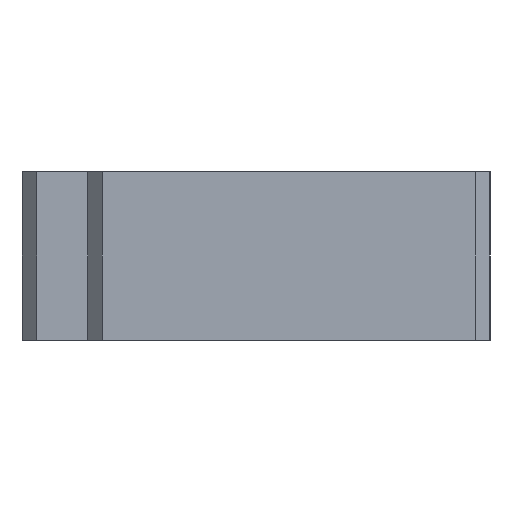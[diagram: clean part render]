
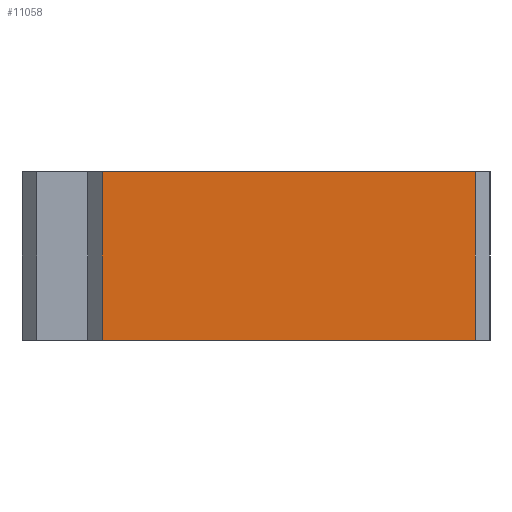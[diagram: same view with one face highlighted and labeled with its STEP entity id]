
A CAD part, left-side view. The second image highlights one B-rep face of the part: STEP entity #11058.
In plain terms, the highlighted planar face has unit normal (-1, 0, 0).
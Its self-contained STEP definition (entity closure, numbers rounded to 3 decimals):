
#344 = DIRECTION ( 'NONE',  ( 0., 0., 1. ) ) ;
#369 = ORIENTED_EDGE ( 'NONE', *, *, #4083, .F. ) ;
#615 = LINE ( 'NONE', #5189, #11369 ) ;
#918 = VECTOR ( 'NONE', #1222, 1000. ) ;
#1222 = DIRECTION ( 'NONE',  ( 0., 1., 0. ) ) ;
#1432 = CARTESIAN_POINT ( 'NONE',  ( -191.569, -30., -11.5 ) ) ;
#1444 = CARTESIAN_POINT ( 'NONE',  ( -191.569, 32., -11.5 ) ) ;
#1458 = LINE ( 'NONE', #10620, #8034 ) ;
#2103 = PLANE ( 'NONE',  #4535 ) ;
#2185 = DIRECTION ( 'NONE',  ( 0., 1., 0. ) ) ;
#2288 = VERTEX_POINT ( 'NONE', #9720 ) ;
#2415 = ORIENTED_EDGE ( 'NONE', *, *, #12781, .F. ) ;
#3202 = DIRECTION ( 'NONE',  ( 0., 0., -1. ) ) ;
#3784 = VERTEX_POINT ( 'NONE', #8285 ) ;
#4083 = EDGE_CURVE ( 'NONE', #2288, #3784, #615, .T. ) ;
#4535 = AXIS2_PLACEMENT_3D ( 'NONE', #9092, #10216, #2185 ) ;
#4830 = VERTEX_POINT ( 'NONE', #5903 ) ;
#5074 = EDGE_CURVE ( 'NONE', #3784, #6508, #13462, .T. ) ;
#5189 = CARTESIAN_POINT ( 'NONE',  ( -191.569, -30., 11.5 ) ) ;
#5903 = CARTESIAN_POINT ( 'NONE',  ( -191.569, 21., -11.5 ) ) ;
#6508 = VERTEX_POINT ( 'NONE', #1432 ) ;
#8034 = VECTOR ( 'NONE', #344, 1000. ) ;
#8285 = CARTESIAN_POINT ( 'NONE',  ( -191.569, -30., 11.5 ) ) ;
#8888 = CARTESIAN_POINT ( 'NONE',  ( -191.569, -30., 11.5 ) ) ;
#9092 = CARTESIAN_POINT ( 'NONE',  ( -191.569, -30., 11.5 ) ) ;
#9265 = ORIENTED_EDGE ( 'NONE', *, *, #13220, .F. ) ;
#9720 = CARTESIAN_POINT ( 'NONE',  ( -191.569, 21., 11.5 ) ) ;
#9733 = ORIENTED_EDGE ( 'NONE', *, *, #5074, .F. ) ;
#10216 = DIRECTION ( 'NONE',  ( 1., 0., 0. ) ) ;
#10252 = VECTOR ( 'NONE', #3202, 1000. ) ;
#10620 = CARTESIAN_POINT ( 'NONE',  ( -191.569, 21., 11.5 ) ) ;
#10670 = LINE ( 'NONE', #1444, #918 ) ;
#11058 = ADVANCED_FACE ( 'NONE', ( #12318 ), #2103, .F. ) ;
#11369 = VECTOR ( 'NONE', #14352, 1000. ) ;
#11573 = EDGE_LOOP ( 'NONE', ( #369, #9265, #2415, #9733 ) ) ;
#12318 = FACE_OUTER_BOUND ( 'NONE', #11573, .T. ) ;
#12781 = EDGE_CURVE ( 'NONE', #6508, #4830, #10670, .T. ) ;
#13220 = EDGE_CURVE ( 'NONE', #4830, #2288, #1458, .T. ) ;
#13462 = LINE ( 'NONE', #8888, #10252 ) ;
#14352 = DIRECTION ( 'NONE',  ( 0., -1., 0. ) ) ;
